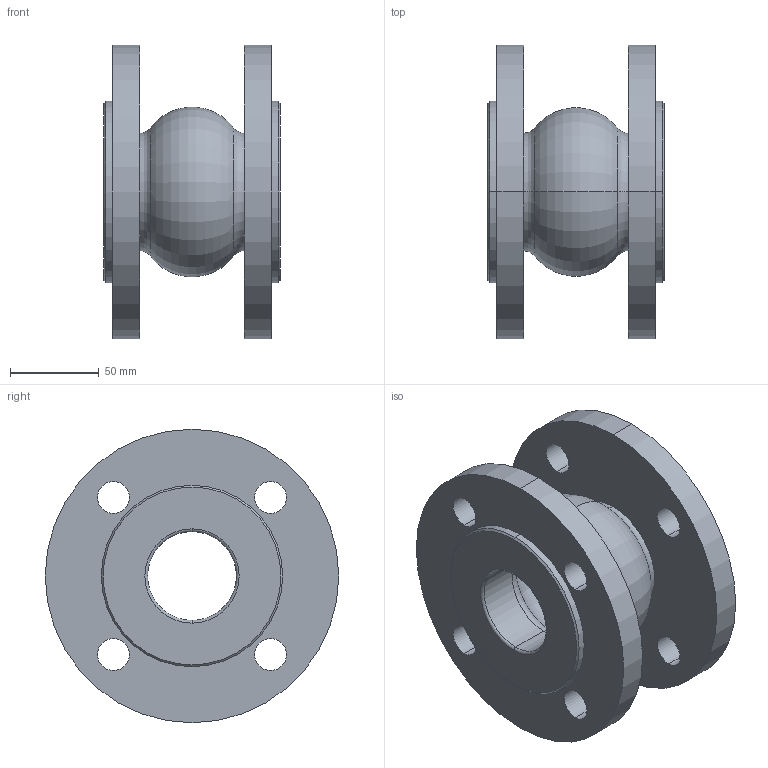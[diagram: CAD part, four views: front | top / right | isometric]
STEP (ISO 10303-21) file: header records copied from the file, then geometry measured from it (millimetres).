
FILE_DESCRIPTION (( 'STEP AP203' ), '1' );
FILE_NAME ('F8_PN16_DN050.STEP', '2012-10-31T08:44:01', ( 'luca.saino' ), ( 'Hewlett-Packard Company' ), 'SwSTEP 2.0', 'SolidWorks 2012', '' );
FILE_SCHEMA (( 'CONFIG_CONTROL_DESIGN' ));
Length unit declared in the file: millimetre
Products named in the file (1): F8_PN16_DN050
Bounding box: 99 x 165 x 165 mm (x, y, z)
Volume: 738258.6 mm3; surface area: 134350.8 mm2
Topology: 1 solids, 1 shells, 58 faces, 132 edges, 80 vertices
Faces by surface type: cylinder 28, torus 16, cone 8, plane 6
Entity records: 1773 total; most frequent: DIRECTION 346, CARTESIAN_POINT 271, ORIENTED_EDGE 264, AXIS2_PLACEMENT_3D 155, EDGE_CURVE 132, CIRCLE 96, VERTEX_POINT 80, EDGE_LOOP 80
